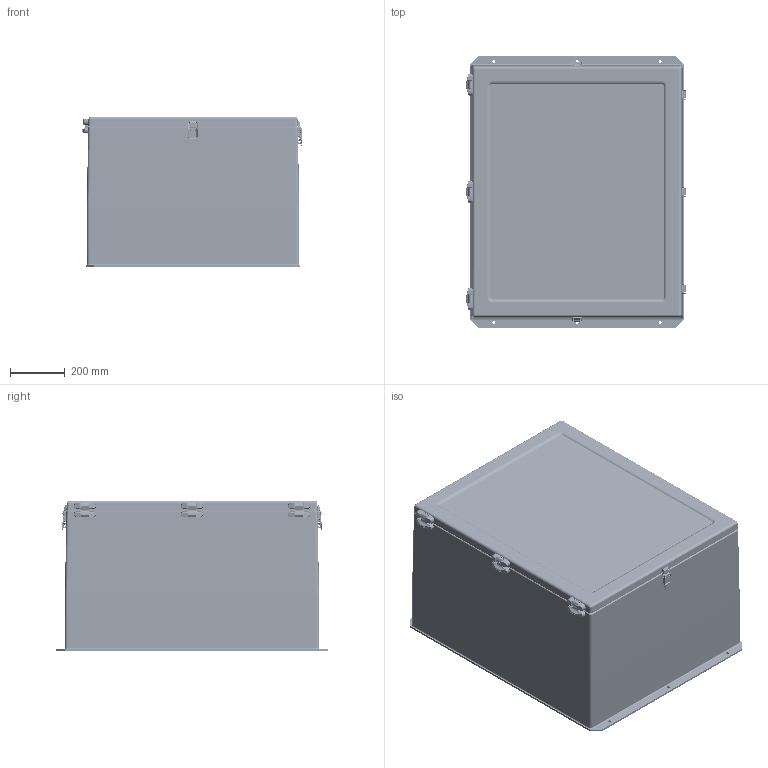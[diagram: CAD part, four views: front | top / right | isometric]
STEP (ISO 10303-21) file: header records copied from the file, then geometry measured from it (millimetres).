
FILE_DESCRIPTION (( 'STEP AP203' ), '1' );
FILE_NAME ('a36h3020gqrlp.STEP', '2012-03-22T18:27:43', ( 'Hoffman User' ), ( 'Hoffman Enclosures' ), 'SwSTEP 2.0', 'SolidWorks 2010', '' );
FILE_SCHEMA (( 'CONFIG_CONTROL_DESIGN' ));
Products named in the file (24): a36h3020gqrlp; 22346023; 87951640; 22178002; 22178001; 22112007_22112003; 89043229; 89082808; 87543463; 89082841; 99416061_FLEX; 24352001; 87759496_87759496 DOOR CLOSED; 22293001; 87955618; 22292001; 87955597; 87955576; 87951276_Closed angled bail; 87951273_87951273; 87951274_87951274; 14241007_14241007; 87949197_87949197; 87949198_87949198
Assembly tree (44 placements, depth 4):
  a36h3020gqrlp
    87759496_87759496 DOOR CLOSED  x3
      14241007_14241007
      22292001
        87955576  x2
        87955597
      22293001
        87955576  x2
        87955618
    87951276_Closed angled bail  x5
      87951274_87951274
      14241007_14241007
      87951273_87951273
      87949197_87949197
    87949198_87949198  x5
    89082808
      87543463
      89082841
    99416061_FLEX
      24352001
    22346023
      22178002  x6
        22178001
        22112007_22112003
      87951640
      89043229
Bounding box: 806.79 x 992.63 x 550.21 mm (x, y, z)
Volume: 14527466.3 mm3; surface area: 7799066.8 mm2
Topology: 71 solids, 71 shells, 8418 faces, 20668 edges, 12331 vertices
Faces by surface type: cylinder 2424, bspline 2272, plane 1943, torus 1037, cone 399, sphere 343
Entity records: 113183 total; most frequent: CARTESIAN_POINT 49567, ORIENTED_EDGE 13760, DIRECTION 10955, EDGE_CURVE 6880, VERTEX_POINT 4271, AXIS2_PLACEMENT_3D 3752, VECTOR 3451, LINE 3451
